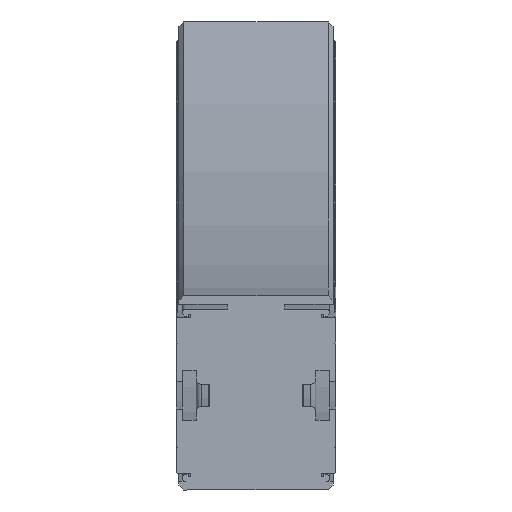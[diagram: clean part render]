
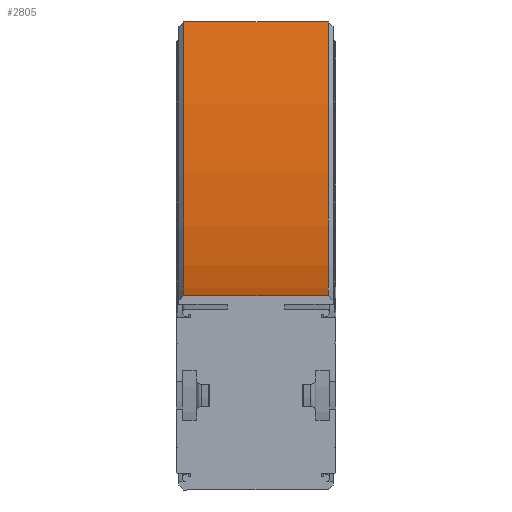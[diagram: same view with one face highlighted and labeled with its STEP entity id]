
A CAD part, front view. The second image highlights one B-rep face of the part: STEP entity #2805.
In plain terms, the highlighted cylindrical face has radius 820 mm (diameter 1640 mm), a partial arc.
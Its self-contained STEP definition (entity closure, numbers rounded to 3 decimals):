
#92=CYLINDRICAL_SURFACE('',#3101,820.);
#315=CIRCLE('',#3100,820.);
#316=CIRCLE('',#3102,820.);
#474=FACE_OUTER_BOUND('',#628,.T.);
#628=EDGE_LOOP('',(#2299,#2300,#2301,#2302));
#821=LINE('',#9361,#1027);
#822=LINE('',#9363,#1028);
#1027=VECTOR('',#3830,10.);
#1028=VECTOR('',#3831,10.);
#1299=VERTEX_POINT('',#9354);
#1300=VERTEX_POINT('',#9356);
#1301=VERTEX_POINT('',#9360);
#1302=VERTEX_POINT('',#9362);
#1698=EDGE_CURVE('',#1299,#1300,#315,.T.);
#1699=EDGE_CURVE('',#1301,#1299,#821,.T.);
#1700=EDGE_CURVE('',#1302,#1300,#822,.T.);
#1701=EDGE_CURVE('',#1301,#1302,#316,.T.);
#2299=ORIENTED_EDGE('',*,*,#1699,.T.);
#2300=ORIENTED_EDGE('',*,*,#1698,.T.);
#2301=ORIENTED_EDGE('',*,*,#1700,.F.);
#2302=ORIENTED_EDGE('',*,*,#1701,.F.);
#2805=ADVANCED_FACE('',(#474),#92,.F.);
#3100=AXIS2_PLACEMENT_3D('',#9358,#3826,#3827);
#3101=AXIS2_PLACEMENT_3D('',#9359,#3828,#3829);
#3102=AXIS2_PLACEMENT_3D('',#9364,#3832,#3833);
#3826=DIRECTION('center_axis',(1.,0.,0.));
#3827=DIRECTION('ref_axis',(0.,0.,-1.));
#3828=DIRECTION('center_axis',(1.,0.,0.));
#3829=DIRECTION('ref_axis',(0.,0.,-1.));
#3830=DIRECTION('',(1.,0.,0.));
#3831=DIRECTION('',(1.,0.,0.));
#3832=DIRECTION('center_axis',(1.,0.,0.));
#3833=DIRECTION('ref_axis',(0.,0.,-1.));
#9354=CARTESIAN_POINT('',(29.,0.,40.));
#9356=CARTESIAN_POINT('',(29.,410.,149.859));
#9358=CARTESIAN_POINT('Origin',(29.,0.,860.));
#9359=CARTESIAN_POINT('Origin',(-14.5,0.,860.));
#9360=CARTESIAN_POINT('',(-29.,0.,40.));
#9361=CARTESIAN_POINT('',(-29.,0.,40.));
#9362=CARTESIAN_POINT('',(-29.,410.,149.859));
#9363=CARTESIAN_POINT('',(-29.,410.,149.859));
#9364=CARTESIAN_POINT('Origin',(-29.,0.,860.));
